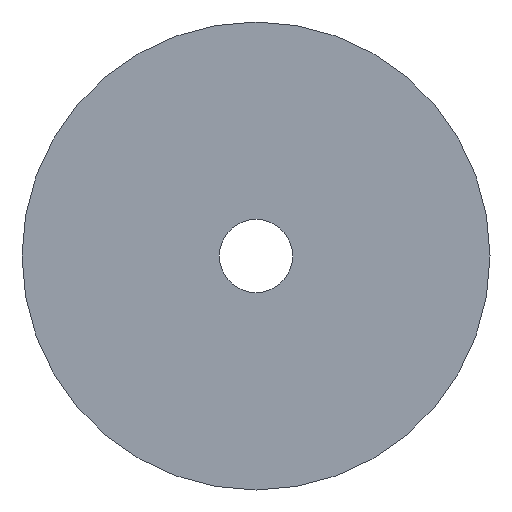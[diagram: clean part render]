
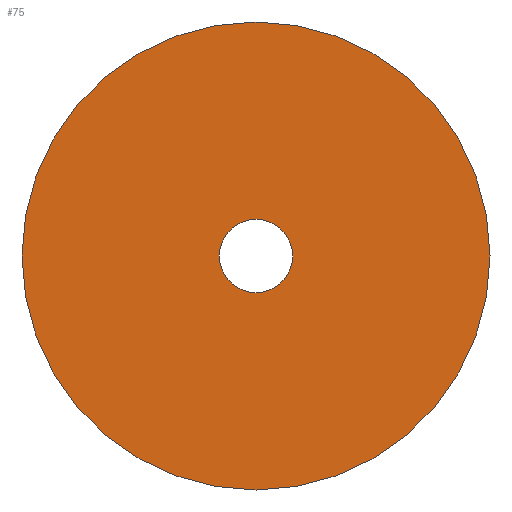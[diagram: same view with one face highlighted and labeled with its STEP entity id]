
A CAD part, front view. The second image highlights one B-rep face of the part: STEP entity #75.
In plain terms, the highlighted planar face has unit normal (0, -1, 0).
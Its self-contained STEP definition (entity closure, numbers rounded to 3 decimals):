
#25=FACE_BOUND('',#34,.T.);
#27=FACE_OUTER_BOUND('',#33,.T.);
#33=EDGE_LOOP('',(#58));
#34=EDGE_LOOP('',(#59));
#40=CIRCLE('',#97,13.75);
#41=CIRCLE('',#98,2.153);
#45=VERTEX_POINT('',#135);
#46=VERTEX_POINT('',#137);
#50=EDGE_CURVE('',#45,#45,#40,.T.);
#51=EDGE_CURVE('',#46,#46,#41,.T.);
#58=ORIENTED_EDGE('',*,*,#50,.F.);
#59=ORIENTED_EDGE('',*,*,#51,.T.);
#73=PLANE('',#96);
#75=ADVANCED_FACE('',(#27,#25),#73,.F.);
#96=AXIS2_PLACEMENT_3D('',#134,#111,#112);
#97=AXIS2_PLACEMENT_3D('',#136,#113,#114);
#98=AXIS2_PLACEMENT_3D('',#138,#115,#116);
#111=DIRECTION('center_axis',(0.,1.,0.));
#112=DIRECTION('ref_axis',(0.,0.,1.));
#113=DIRECTION('center_axis',(0.,1.,0.));
#114=DIRECTION('ref_axis',(0.,0.,1.));
#115=DIRECTION('center_axis',(0.,1.,0.));
#116=DIRECTION('ref_axis',(0.,0.,1.));
#134=CARTESIAN_POINT('Origin',(0.,0.,0.));
#135=CARTESIAN_POINT('',(0.,0.,13.75));
#136=CARTESIAN_POINT('Origin',(0.,0.,0.));
#137=CARTESIAN_POINT('',(0.,0.,-2.153));
#138=CARTESIAN_POINT('Origin',(0.,0.,0.));
